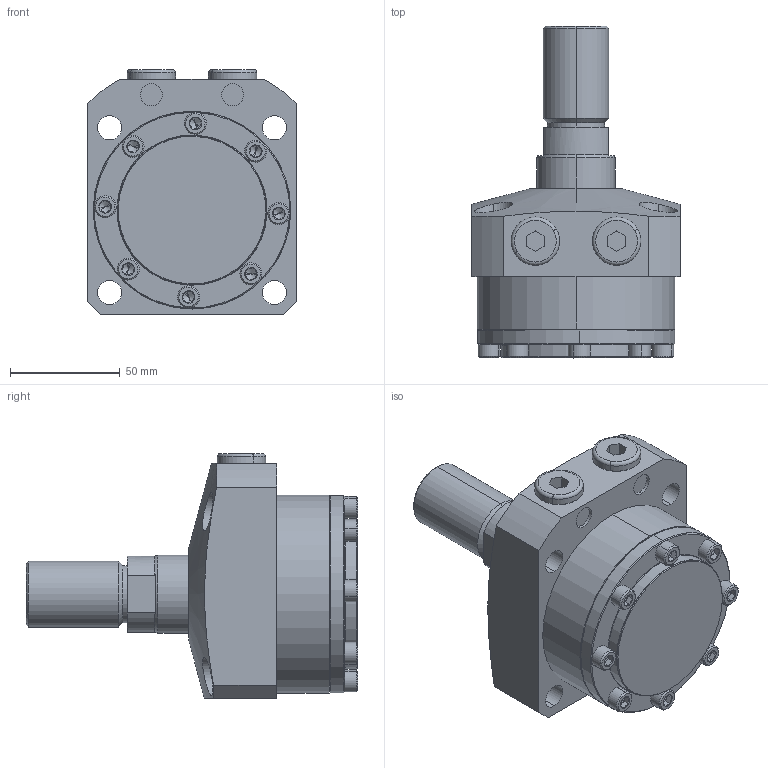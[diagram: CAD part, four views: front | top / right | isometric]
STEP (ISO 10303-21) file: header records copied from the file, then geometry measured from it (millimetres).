
FILE_DESCRIPTION (( 'STEP AP203' ), '1' );
FILE_NAME ('680900-CT-015.step', '2016-11-02T03:29:04', ( 'wxp' ), ( '' ), 'SwSTEP 2.0', 'SolidWorks 2011', '' );
FILE_SCHEMA (( 'CONFIG_CONTROL_DESIGN' ));
Length unit declared in the file: millimetre
Products named in the file (6): 680900-CT-015; 葩璃 680900-CA-15-12^680900-CT-015; 葩璃 68090-CA-15-5^680900-CT-015; 葩璃 68090-CA-15-4^680900-CT-015; 葩璃 68090-CA-15-3^680900-CT-015; 葩璃 68090-CA-15-1^680900-CT-015
Assembly tree (13 placements, depth 2):
  680900-CT-015
    葩璃 68090-CA-15-4^680900-CT-015  x8
    葩璃 68090-CA-15-3^680900-CT-015
    葩璃 68090-CA-15-5^680900-CT-015  x2
    葩璃 68090-CA-15-1^680900-CT-015
    葩璃 680900-CA-15-12^680900-CT-015
Bounding box: 95 x 151 x 111.5 mm (x, y, z)
Volume: 598760.1 mm3; surface area: 82186.2 mm2
Topology: 13 solids, 13 shells, 410 faces, 792 edges, 425 vertices
Faces by surface type: plane 169, cone 120, cylinder 105, torus 16
Entity records: 5897 total; most frequent: CARTESIAN_POINT 1249, DIRECTION 885, ORIENTED_EDGE 716, AXIS2_PLACEMENT_3D 370, EDGE_CURVE 358, VERTEX_POINT 218, EDGE_LOOP 208, CIRCLE 187
